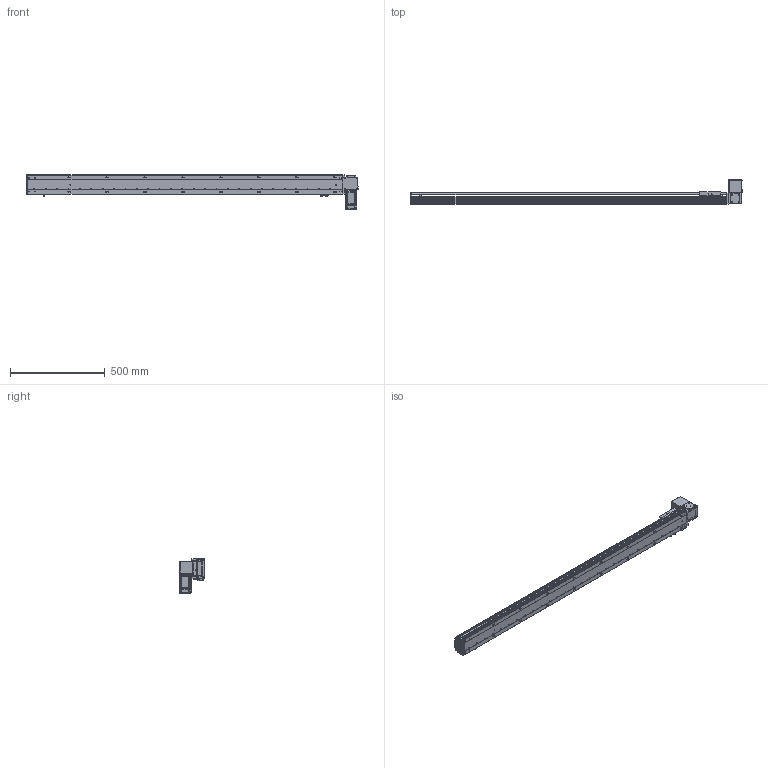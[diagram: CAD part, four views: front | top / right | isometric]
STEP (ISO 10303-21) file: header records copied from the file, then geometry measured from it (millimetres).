
FILE_DESCRIPTION (( 'STEP AP203' ), '1' );
FILE_NAME ('RY100-T-300-UL.SLDASM_1450.step', '2024-04-25T08:40:37', ( '盈信电脑' ), ( '东莞市道滘镇水果街19号' ), 'SwSTEP 2.0', 'SolidWorks 2016', '' );
FILE_SCHEMA (( 'CONFIG_CONTROL_DESIGN' ));
Length unit declared in the file: millimetre
Products named in the file (15): RY100-T翋肮祭謫裔啣; 1; RY100-T翋肮祭謫裔啣2; RY100-T-300-RK倰第奻裔_1450; RY100-T肮祭謫翋盓傅釱; RY100綴裔啣; RY100俋离覜茼え; 滅袉蝶18-10; 覜茼ん672; RY100-T左右折电机安装板; RY100-T肮祭謫臏賑輸; RY80-T肮祭謫奻殏俋欶; RY100-T-300-UL.SLDASM_1450; RY100-T-300-RK倰第菁釱_1450; RY100-T粣創揤踡裔
Assembly tree (17 placements, depth 2):
  RY100-T-300-UL.SLDASM_1450
    RY100-T-300-RK倰第菁釱_1450
    RY100-T-300-RK倰第奻裔_1450
    RY100-T肮祭謫臏賑輸
    RY100綴裔啣
    覜茼ん672  x3
    RY100俋离覜茼え
    RY100-T肮祭謫翋盓傅釱
    滅袉蝶18-10  x2
    RY100-T翋肮祭謫裔啣2
    RY100-T翋肮祭謫裔啣
    1
    RY100-T左右折电机安装板
    RY80-T肮祭謫奻殏俋欶
    RY100-T粣創揤踡裔
Bounding box: 1750 x 130.5 x 182.5 mm (x, y, z)
Volume: 3346593.5 mm3; surface area: 1400253.7 mm2
Topology: 17 solids, 17 shells, 2239 faces, 6234 edges, 4050 vertices
Faces by surface type: plane 1207, cylinder 821, cone 133, bspline 78
Entity records: 72312 total; most frequent: CARTESIAN_POINT 17423, ORIENTED_EDGE 11300, DIRECTION 10776, EDGE_CURVE 5650, VERTEX_POINT 3718, LINE 3632, VECTOR 3632, AXIS2_PLACEMENT_3D 3572
